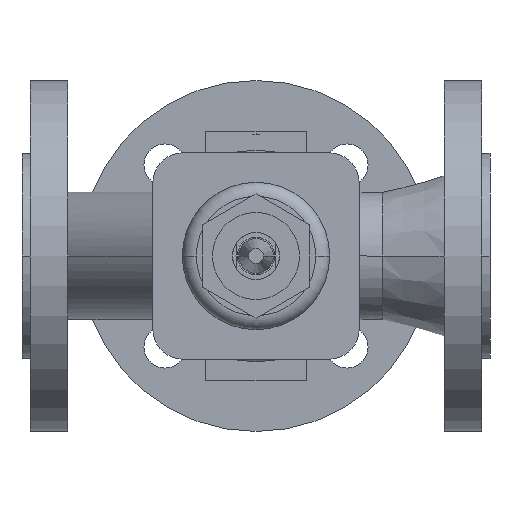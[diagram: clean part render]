
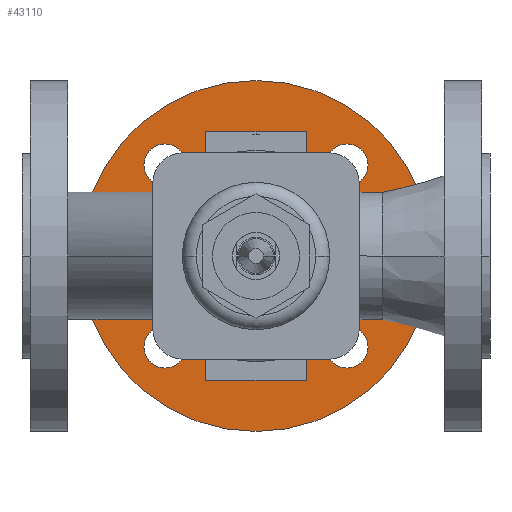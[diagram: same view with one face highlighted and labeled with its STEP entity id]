
A CAD part, front view. The second image highlights one B-rep face of the part: STEP entity #43110.
In plain terms, the highlighted planar face has unit normal (0, -1, 0).
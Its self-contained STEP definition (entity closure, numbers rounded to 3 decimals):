
#120=CARTESIAN_POINT('',(137.5,70.36,0.));
#130=VERTEX_POINT('',#120);
#160=CARTESIAN_POINT('',(100.,70.36,0.));
#170=DIRECTION('',(0.,-1.,0.));
#180=DIRECTION('',(-1.,0.,0.));
#190=AXIS2_PLACEMENT_3D('',#160,#170,#180);
#200=CIRCLE('',#190,37.5);
#210=CARTESIAN_POINT('',(62.5,70.36,0.));
#220=VERTEX_POINT('',#210);
#230=EDGE_CURVE('',#220,#130,#200,.T.);
#1080=CARTESIAN_POINT('',(175.,70.36,0.));
#1090=VERTEX_POINT('',#1080);
#1140=CARTESIAN_POINT('',(100.,70.36,0.));
#1150=DIRECTION('',(0.,1.,0.));
#1160=DIRECTION('',(1.,0.,0.));
#1170=AXIS2_PLACEMENT_3D('',#1140,#1150,#1160);
#1180=CIRCLE('',#1170,75.);
#1190=CARTESIAN_POINT('',(25.,70.36,0.));
#1200=VERTEX_POINT('',#1190);
#1210=EDGE_CURVE('',#1200,#1090,#1180,.T.);
#1570=CARTESIAN_POINT('',(147.891,70.36,38.891));
#1580=VERTEX_POINT('',#1570);
#1760=CARTESIAN_POINT('',(129.891,70.36,38.891));
#1770=VERTEX_POINT('',#1760);
#1800=CARTESIAN_POINT('',(138.891,70.36,38.891));
#1810=DIRECTION('',(0.,-1.,0.));
#1820=DIRECTION('',(1.,0.,0.));
#1830=AXIS2_PLACEMENT_3D('',#1800,#1810,#1820);
#1840=CIRCLE('',#1830,9.);
#1850=EDGE_CURVE('',#1580,#1770,#1840,.T.);
#2060=CARTESIAN_POINT('',(129.891,70.36,-38.891));
#2070=VERTEX_POINT('',#2060);
#2250=CARTESIAN_POINT('',(147.891,70.36,-38.891));
#2260=VERTEX_POINT('',#2250);
#2290=CARTESIAN_POINT('',(138.891,70.36,-38.891));
#2300=DIRECTION('',(0.,-1.,0.));
#2310=DIRECTION('',(1.,0.,0.));
#2320=AXIS2_PLACEMENT_3D('',#2290,#2300,#2310);
#2330=CIRCLE('',#2320,9.);
#2340=EDGE_CURVE('',#2070,#2260,#2330,.T.);
#2550=CARTESIAN_POINT('',(70.109,70.36,-38.891));
#2560=VERTEX_POINT('',#2550);
#2740=CARTESIAN_POINT('',(52.109,70.36,-38.891));
#2750=VERTEX_POINT('',#2740);
#2780=CARTESIAN_POINT('',(61.109,70.36,-38.891));
#2790=DIRECTION('',(0.,-1.,0.));
#2800=DIRECTION('',(1.,0.,0.));
#2810=AXIS2_PLACEMENT_3D('',#2780,#2790,#2800);
#2820=CIRCLE('',#2810,9.);
#2830=EDGE_CURVE('',#2560,#2750,#2820,.T.);
#3040=CARTESIAN_POINT('',(70.109,70.36,38.891));
#3050=VERTEX_POINT('',#3040);
#3230=CARTESIAN_POINT('',(52.109,70.36,38.891));
#3240=VERTEX_POINT('',#3230);
#3270=CARTESIAN_POINT('',(61.109,70.36,38.891));
#3280=DIRECTION('',(0.,-1.,0.));
#3290=DIRECTION('',(1.,0.,0.));
#3300=AXIS2_PLACEMENT_3D('',#3270,#3280,#3290);
#3310=CIRCLE('',#3300,9.);
#3320=EDGE_CURVE('',#3050,#3240,#3310,.T.);
#42760=CARTESIAN_POINT('',(59.25,70.36,0.));
#42770=DIRECTION('',(0.,-1.,0.));
#42780=DIRECTION('',(-1.,0.,0.));
#42790=AXIS2_PLACEMENT_3D('',#42760,#42770,#42780);
#42800=PLANE('',#42790);
#42810=EDGE_CURVE('',#1090,#1200,#1180,.T.);
#42820=ORIENTED_EDGE('',*,*,#42810,.F.);
#42830=ORIENTED_EDGE('',*,*,#1210,.F.);
#42840=EDGE_LOOP('',(#42830,#42820));
#42850=FACE_OUTER_BOUND('',#42840,.T.);
#42860=EDGE_CURVE('',#1770,#1580,#1840,.T.);
#42870=ORIENTED_EDGE('',*,*,#42860,.F.);
#42880=ORIENTED_EDGE('',*,*,#1850,.F.);
#42890=EDGE_LOOP('',(#42880,#42870));
#42900=FACE_BOUND('',#42890,.T.);
#42910=EDGE_CURVE('',#2260,#2070,#2330,.T.);
#42920=ORIENTED_EDGE('',*,*,#42910,.F.);
#42930=ORIENTED_EDGE('',*,*,#2340,.F.);
#42940=EDGE_LOOP('',(#42930,#42920));
#42950=FACE_BOUND('',#42940,.T.);
#42960=EDGE_CURVE('',#2750,#2560,#2820,.T.);
#42970=ORIENTED_EDGE('',*,*,#42960,.F.);
#42980=ORIENTED_EDGE('',*,*,#2830,.F.);
#42990=EDGE_LOOP('',(#42980,#42970));
#43000=FACE_BOUND('',#42990,.T.);
#43010=EDGE_CURVE('',#3240,#3050,#3310,.T.);
#43020=ORIENTED_EDGE('',*,*,#43010,.F.);
#43030=ORIENTED_EDGE('',*,*,#3320,.F.);
#43040=EDGE_LOOP('',(#43030,#43020));
#43050=FACE_BOUND('',#43040,.T.);
#43060=ORIENTED_EDGE('',*,*,#230,.F.);
#43070=EDGE_CURVE('',#130,#220,#200,.T.);
#43080=ORIENTED_EDGE('',*,*,#43070,.F.);
#43090=EDGE_LOOP('',(#43080,#43060));
#43100=FACE_BOUND('',#43090,.T.);
#43110=ADVANCED_FACE('',(#42850,#42900,#42950,#43000,#43050,#43100),
#42800,.T.);
